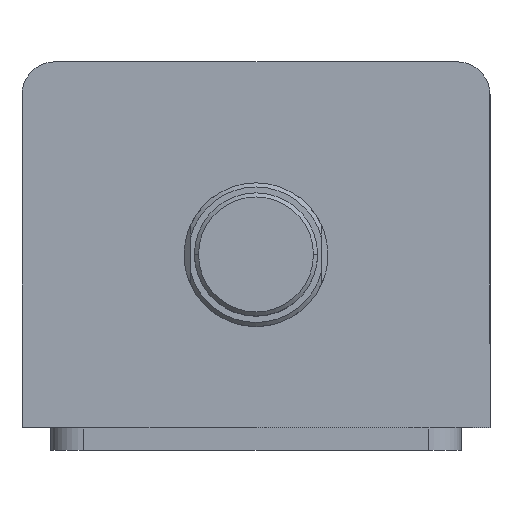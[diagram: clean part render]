
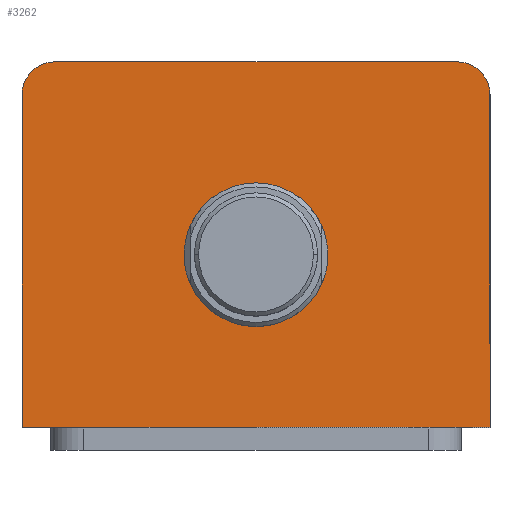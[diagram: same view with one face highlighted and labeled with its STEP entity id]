
A CAD part, top view. The second image highlights one B-rep face of the part: STEP entity #3262.
In plain terms, the highlighted planar face has unit normal (0, 0, 1).
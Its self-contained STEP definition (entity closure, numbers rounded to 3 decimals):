
#18 = CARTESIAN_POINT ( 'NONE',  ( 0., 0., 87. ) ) ;
#88 = PLANE ( 'NONE',  #303 ) ;
#126 = DIRECTION ( 'NONE',  ( 1., 0., 0. ) ) ;
#127 = DIRECTION ( 'NONE',  ( 0., 0., 1. ) ) ;
#212 = FACE_OUTER_BOUND ( 'NONE', #2805, .T. ) ;
#216 = FACE_BOUND ( 'NONE', #2709, .T. ) ;
#222 = CIRCLE ( 'NONE', #673, 8. ) ;
#303 = AXIS2_PLACEMENT_3D ( 'NONE', #18, #127, #126 ) ;
#369 = AXIS2_PLACEMENT_3D ( 'NONE', #3570, #3571, #3572 ) ;
#375 = AXIS2_PLACEMENT_3D ( 'NONE', #786, #777, #773 ) ;
#543 = AXIS2_PLACEMENT_3D ( 'NONE', #3107, #3105, #3104 ) ;
#673 = AXIS2_PLACEMENT_3D ( 'NONE', #3147, #3145, #3144 ) ;
#773 = DIRECTION ( 'NONE',  ( 1., 0., 0. ) ) ;
#777 = DIRECTION ( 'NONE',  ( 0., 0., 1. ) ) ;
#779 = DIRECTION ( 'NONE',  ( -1., 0., 0. ) ) ;
#783 = CARTESIAN_POINT ( 'NONE',  ( -57., 44.5, 87. ) ) ;
#786 = CARTESIAN_POINT ( 'NONE',  ( 0., -2.5, 87. ) ) ;
#955 = VECTOR ( 'NONE', #3087, 1000. ) ;
#958 = LINE ( 'NONE', #3088, #955 ) ;
#962 = CIRCLE ( 'NONE', #543, 8. ) ;
#981 = VECTOR ( 'NONE', #3202, 1000. ) ;
#984 = LINE ( 'NONE', #3207, #981 ) ;
#1467 = VECTOR ( 'NONE', #779, 1000. ) ;
#1470 = LINE ( 'NONE', #783, #1467 ) ;
#1564 = ORIENTED_EDGE ( 'NONE', *, *, #3597, .T. ) ;
#1758 = ORIENTED_EDGE ( 'NONE', *, *, #2282, .T. ) ;
#1891 = ORIENTED_EDGE ( 'NONE', *, *, #2369, .T. ) ;
#1942 = ORIENTED_EDGE ( 'NONE', *, *, #3589, .F. ) ;
#2057 = CIRCLE ( 'NONE', #369, 17.5 ) ;
#2069 = LINE ( 'NONE', #3551, #2072 ) ;
#2072 = VECTOR ( 'NONE', #3553, 1000. ) ;
#2083 = CIRCLE ( 'NONE', #375, 17.5 ) ;
#2282 = EDGE_CURVE ( 'NONE', #2704, #2822, #1470, .T. ) ;
#2348 = EDGE_CURVE ( 'NONE', #2646, #2885, #984, .T. ) ;
#2356 = EDGE_CURVE ( 'NONE', #2885, #2704, #222, .T. ) ;
#2365 = EDGE_CURVE ( 'NONE', #2822, #2609, #962, .T. ) ;
#2369 = EDGE_CURVE ( 'NONE', #2609, #2632, #958, .T. ) ;
#2609 = VERTEX_POINT ( 'NONE', #3481 ) ;
#2632 = VERTEX_POINT ( 'NONE', #3468 ) ;
#2646 = VERTEX_POINT ( 'NONE', #3462 ) ;
#2704 = VERTEX_POINT ( 'NONE', #3448 ) ;
#2709 = EDGE_LOOP ( 'NONE', ( #1942, #3623 ) ) ;
#2741 = ORIENTED_EDGE ( 'NONE', *, *, #2348, .T. ) ;
#2756 = VERTEX_POINT ( 'NONE', #3437 ) ;
#2771 = ORIENTED_EDGE ( 'NONE', *, *, #2365, .T. ) ;
#2805 = EDGE_LOOP ( 'NONE', ( #1758, #2771, #1891, #1564, #2741, #2828 ) ) ;
#2822 = VERTEX_POINT ( 'NONE', #3419 ) ;
#2828 = ORIENTED_EDGE ( 'NONE', *, *, #2356, .T. ) ;
#2884 = VERTEX_POINT ( 'NONE', #3401 ) ;
#2885 = VERTEX_POINT ( 'NONE', #3407 ) ;
#3087 = DIRECTION ( 'NONE',  ( 0., -1., 0. ) ) ;
#3088 = CARTESIAN_POINT ( 'NONE',  ( -57., 44.5, 87. ) ) ;
#3104 = DIRECTION ( 'NONE',  ( 1., 0., 0. ) ) ;
#3105 = DIRECTION ( 'NONE',  ( 0., 0., 1. ) ) ;
#3107 = CARTESIAN_POINT ( 'NONE',  ( -49., 36.5, 87. ) ) ;
#3144 = DIRECTION ( 'NONE',  ( 1., 0., 0. ) ) ;
#3145 = DIRECTION ( 'NONE',  ( 0., 0., 1. ) ) ;
#3147 = CARTESIAN_POINT ( 'NONE',  ( 49., 36.5, 87. ) ) ;
#3202 = DIRECTION ( 'NONE',  ( 0., 1., 0. ) ) ;
#3207 = CARTESIAN_POINT ( 'NONE',  ( 57., 44.5, 87. ) ) ;
#3262 = ADVANCED_FACE ( 'NONE', ( #216, #212 ), #88, .T. ) ;
#3401 = CARTESIAN_POINT ( 'NONE',  ( -17.5, -2.5, 87. ) ) ;
#3407 = CARTESIAN_POINT ( 'NONE',  ( 57., 36.5, 87. ) ) ;
#3419 = CARTESIAN_POINT ( 'NONE',  ( -49., 44.5, 87. ) ) ;
#3437 = CARTESIAN_POINT ( 'NONE',  ( 17.5, -2.5, 87. ) ) ;
#3448 = CARTESIAN_POINT ( 'NONE',  ( 49., 44.5, 87. ) ) ;
#3462 = CARTESIAN_POINT ( 'NONE',  ( 57., -44.5, 87. ) ) ;
#3468 = CARTESIAN_POINT ( 'NONE',  ( -57., -44.5, 87. ) ) ;
#3481 = CARTESIAN_POINT ( 'NONE',  ( -57., 36.5, 87. ) ) ;
#3551 = CARTESIAN_POINT ( 'NONE',  ( -57., -44.5, 87. ) ) ;
#3553 = DIRECTION ( 'NONE',  ( 1., 0., 0. ) ) ;
#3570 = CARTESIAN_POINT ( 'NONE',  ( 0., -2.5, 87. ) ) ;
#3571 = DIRECTION ( 'NONE',  ( 0., 0., 1. ) ) ;
#3572 = DIRECTION ( 'NONE',  ( 1., 0., 0. ) ) ;
#3589 = EDGE_CURVE ( 'NONE', #2756, #2884, #2057, .T. ) ;
#3597 = EDGE_CURVE ( 'NONE', #2632, #2646, #2069, .T. ) ;
#3606 = EDGE_CURVE ( 'NONE', #2884, #2756, #2083, .T. ) ;
#3623 = ORIENTED_EDGE ( 'NONE', *, *, #3606, .F. ) ;
